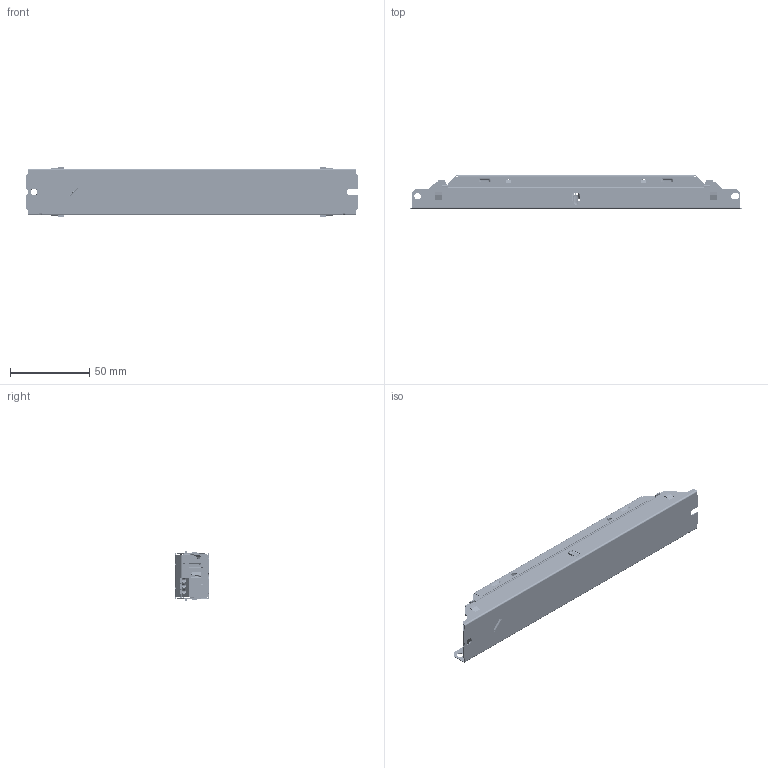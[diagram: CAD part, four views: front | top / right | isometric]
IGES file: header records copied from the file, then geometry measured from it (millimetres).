
Start section: SolidWorks IGES file using analytic representation for surfaces
Global section: file name: D:\Mechanic\M.C\Levi\Non-selv\OTFIT_Non-self_18_35_65.IGS; native system: SolidWorks 2015; preprocessor: SolidWorks 2015; author: wengen.tan; date: 171017.172224; units: millimetre
Bounding box: 209 x 21.2 x 31.39 mm (x, y, z)
Surface area: 83032.9 mm2 (no closed solid volume)
Topology: 0 solids, 0 shells, 7239 faces, 48317 edges, 47713 vertices
Faces by surface type: bspline 4433, revolution 2806
